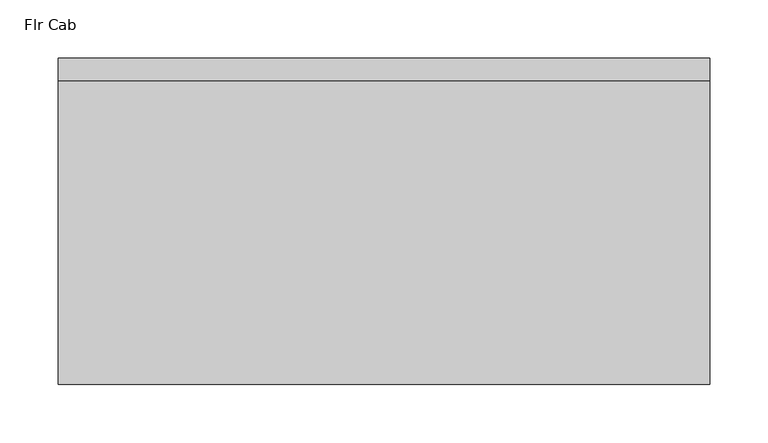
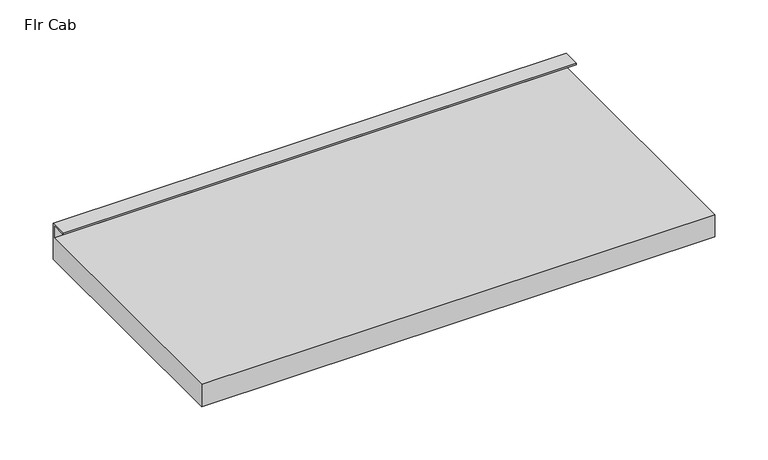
"""IFC4 building model written with IfcOpenShell, lengths in millimetres: furniture geometry, HermanMiller_CoStruc_CV314_CabinetFloor : Flr Cab."""

from ifc_helpers import new_model, si_unit, frame, origin, place, context, project, spatial, polyline, outline, extrude, source, transform, mapped, element, save


def flr_cab_53eb0633(model_context):
    return source(origin(), model_context, "Body", "SweptSolid", [
        extrude(outline(polyline([(107.95, 65.0875), (107.95, 66.675), (127.0, 66.675), (127.0, 25.4), (-152.4, 25.4), (-152.4, 50.8), (125.4125, 50.8), (125.4125, 65.0875), (107.95, 65.0875)])), frame((-278.60498, 0.0, 0.0), z_axis=(1.0, 0.0, 0.0), x_axis=(0.0, 1.0, 0.0)), (0.0, 0.0, 1.0), 557.2125),
    ])


if __name__ == "__main__":
    model = new_model("IFC4")
    model_context = context("Model", 3, world=origin())
    ifc_project = project(units=[si_unit("LENGTHUNIT", "METRE", prefix="MILLI")], contexts=[model_context])
    site = spatial("IfcSite", under=ifc_project)
    building = spatial("IfcBuilding", under=site)
    placement = place(None, origin())
    flr_cab_shape = flr_cab_53eb0633(model_context)
    element("IfcFurniture", 1, ObjectType="HermanMiller_CoStruc_CV314_CabinetFloor : Flr Cab", at=placement, inside=building, context=model_context, shape_type="MappedRepresentation", body=[
        mapped(flr_cab_shape, transform((0.0, 0.0, 0.0), x_axis=(1.0, 0.0, 0.0), y_axis=(0.0, 1.0, 0.0), z_axis=(0.0, 0.0, 1.0))),
    ])
    save(model, "model.ifc")
